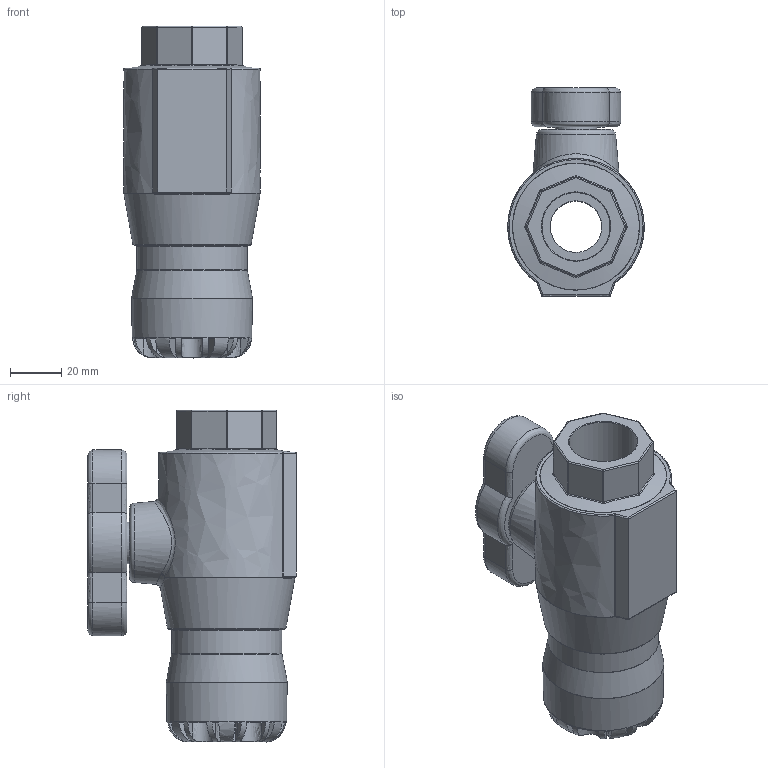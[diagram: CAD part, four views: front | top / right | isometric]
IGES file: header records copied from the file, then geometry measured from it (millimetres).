
Global section: file name: 03710030S00025007_03710030SF0025007; native system: Autodesk Inventor 2019; preprocessor: unknown; author: Lenora; date: 20220418.173817; units: millimetre
Bounding box: 53 x 81 x 129 mm (x, y, z)
Volume: 222624.8 mm3; surface area: 40136.5 mm2
Topology: 1 solids, 1 shells, 217 faces, 537 edges, 329 vertices
Faces by surface type: bspline 217
